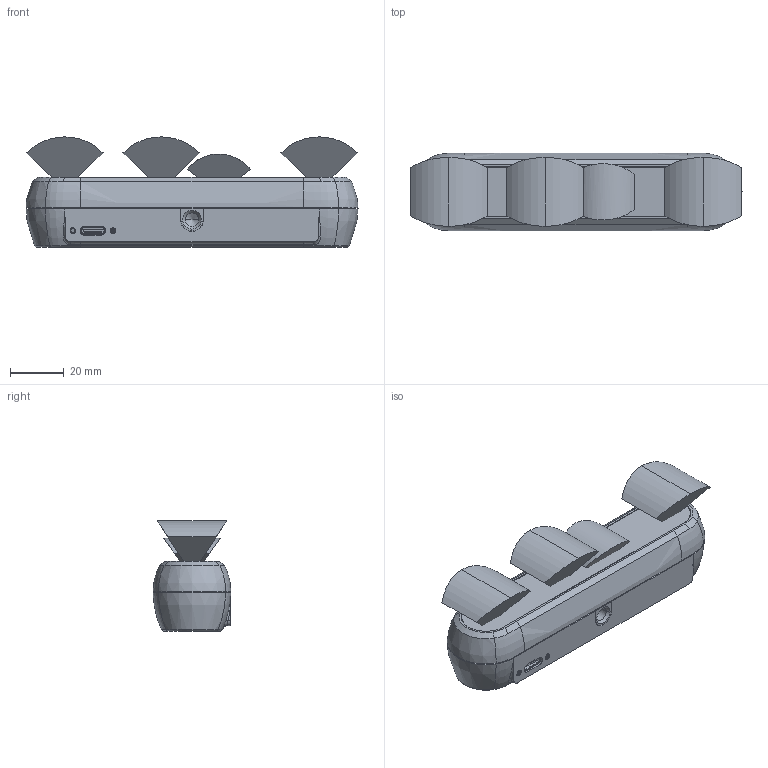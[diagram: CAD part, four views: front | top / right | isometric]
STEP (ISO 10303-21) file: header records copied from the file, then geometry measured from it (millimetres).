
FILE_DESCRIPTION((''),'2;1');
FILE_NAME('INTEL_REALSENSE_D455_CAD_EXTERN_ASM','2020-10-22T15:03:29',('wkho'),('INTEL'),'CREO PARAMETRIC BY PTC INC, 2019080','CREO PARAMETRIC BY PTC INC, 2019080','');
FILE_SCHEMA(('CONFIG_CONTROL_DESIGN'));
Products named in the file (38): MEC060311_6; DS5_0390_FOAM_FRONT_D455_3; DS5_0390_ADHESIVE_D455_2; MEC060312_ASM_4_ASM; AM0600131_ASM_2_ASM; MEC060313_2; MASK_LENS_COVER_D455_3; MEC060314_5; AM0600132_ASM_3_ASM; MEC060318_11; MEC060319_2; AM0600135_ASM_3_ASM; MEC060304_3; FAS000225_6; DS5_0390_LABEL_FRONT_MOD_D455_5; DS5_0390_LABEL_FRONT_ADH_D455_3; MEC060309_ASM_5_ASM; MEC060308_5; 10137062C_1_1_1; 10137062C_1_ASM_2_ASM; AS0605401_ASM_4_ASM; MEC060316_8; SWEEP1_1; 91732A649_ASM_1_ASM; FAS000227_ASM_2_ASM; SWEEP1_1_2_3_1; 91732A181_ASM_1_ASM; FAS000226_ASM_2_ASM; MEC060019_1; AM0600133_ASM_2_ASM; MD0645501_ASM_12_ASM; DS8480D-ASSM-MECH_00D1_OP_D6__1; LEN000021_WITH_FOV_ASM_1_ASM_1__ASM; DS8580B-ASSM-MECH_02_OP_D6__FOV; AM0600115_REV01_ASM_EXTERNA-255_ASM; AM0600115_INT_REV01_2_SW0001_1; AM0600115_REV01_ASM_EXTERNA-517_ASM; INTEL_REALSENSE_D455_CAD_EXTERN_ASM
Assembly tree (43 placements, depth 6):
  INTEL_REALSENSE_D455_CAD_EXTERN_ASM
    MD0645501_ASM_12_ASM
      AM0600131_ASM_2_ASM
        MEC060311_6
        MEC060312_ASM_4_ASM
          DS5_0390_FOAM_FRONT_D455_3
          DS5_0390_ADHESIVE_D455_2
      AM0600132_ASM_3_ASM
        MEC060313_2
        MASK_LENS_COVER_D455_3
        MEC060314_5
      AM0600135_ASM_3_ASM
        MEC060318_11
        MEC060319_2  x2
      MEC060304_3
      FAS000225_6  x2
      MEC060309_ASM_5_ASM
        DS5_0390_LABEL_FRONT_MOD_D455_5
        DS5_0390_LABEL_FRONT_ADH_D455_3
      MEC060308_5
      AS0605401_ASM_4_ASM
        10137062C_1_ASM_2_ASM
          10137062C_1_1_1
      AM0600133_ASM_2_ASM
        MEC060316_8
        FAS000227_ASM_2_ASM  x2
          91732A649_ASM_1_ASM
            SWEEP1_1
        FAS000226_ASM_2_ASM  x2
          91732A181_ASM_1_ASM
            SWEEP1_1_2_3_1
        MEC060019_1
    AM0600115_REV01_ASM_EXTERNA-517_ASM
      AM0600115_REV01_ASM_EXTERNA-255_ASM
        LEN000021_WITH_FOV_ASM_1_ASM_1__ASM  x3
          DS8480D-ASSM-MECH_00D1_OP_D6__1
        DS8580B-ASSM-MECH_02_OP_D6__FOV
      AM0600115_INT_REV01_2_SW0001_1
Bounding box: 124 x 29 x 41.15 mm (x, y, z)
Volume: 72037.9 mm3; surface area: 78018 mm2
Topology: 28 solids, 36 shells, 2657 faces, 7754 edges, 5281 vertices
Faces by surface type: plane 1308, cylinder 896, bspline 210, cone 139, torus 40, sphere 27, extrusion 23, revolution 14
Entity records: 133639 total; most frequent: CARTESIAN_POINT 65488, ORIENTED_EDGE 14880, DIRECTION 13095, EDGE_CURVE 7440, VERTEX_POINT 5100, VECTOR 4471, LINE 4448, AXIS2_PLACEMENT_3D 4305
